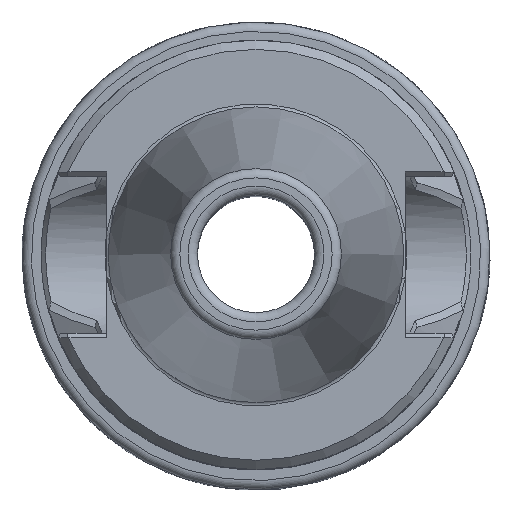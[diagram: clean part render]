
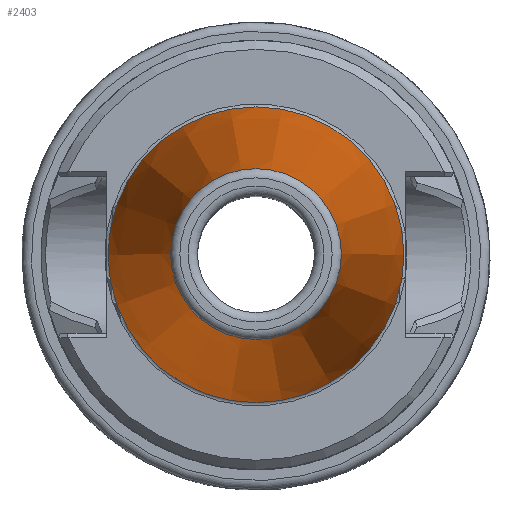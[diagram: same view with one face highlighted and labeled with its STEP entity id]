
A CAD part, top view. The second image highlights one B-rep face of the part: STEP entity #2403.
In plain terms, the highlighted conical face has half-angle 7.981 degrees and reference radius 12.4 mm.
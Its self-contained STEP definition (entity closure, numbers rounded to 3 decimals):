
#114=CIRCLE('',#2611,15.8);
#115=CIRCLE('',#2612,15.8);
#126=CIRCLE('',#2627,9.121);
#127=CIRCLE('',#2628,9.121);
#205=CONICAL_SURFACE('',#2629,12.4,0.139);
#277=LINE('',#4615,#392);
#392=VECTOR('',#3026,12.4);
#582=FACE_OUTER_BOUND('',#713,.T.);
#713=EDGE_LOOP('',(#1972,#1973,#1974,#1975,#1976,#1977));
#1040=VERTEX_POINT('',#4582);
#1041=VERTEX_POINT('',#4583);
#1050=VERTEX_POINT('',#4609);
#1051=VERTEX_POINT('',#4611);
#1368=EDGE_CURVE('',#1040,#1041,#114,.T.);
#1369=EDGE_CURVE('',#1041,#1040,#115,.T.);
#1382=EDGE_CURVE('',#1050,#1051,#126,.T.);
#1383=EDGE_CURVE('',#1051,#1050,#127,.T.);
#1384=EDGE_CURVE('',#1050,#1041,#277,.T.);
#1972=ORIENTED_EDGE('',*,*,#1383,.F.);
#1973=ORIENTED_EDGE('',*,*,#1382,.F.);
#1974=ORIENTED_EDGE('',*,*,#1384,.T.);
#1975=ORIENTED_EDGE('',*,*,#1369,.T.);
#1976=ORIENTED_EDGE('',*,*,#1368,.T.);
#1977=ORIENTED_EDGE('',*,*,#1384,.F.);
#2403=ADVANCED_FACE('',(#582),#205,.T.);
#2611=AXIS2_PLACEMENT_3D('',#4584,#2986,#2987);
#2612=AXIS2_PLACEMENT_3D('',#4585,#2988,#2989);
#2627=AXIS2_PLACEMENT_3D('',#4612,#3020,#3021);
#2628=AXIS2_PLACEMENT_3D('',#4613,#3022,#3023);
#2629=AXIS2_PLACEMENT_3D('',#4614,#3024,#3025);
#2986=DIRECTION('center_axis',(0.,0.,1.));
#2987=DIRECTION('ref_axis',(1.,0.,0.));
#2988=DIRECTION('center_axis',(0.,0.,1.));
#2989=DIRECTION('ref_axis',(1.,0.,0.));
#3020=DIRECTION('center_axis',(0.,0.,1.));
#3021=DIRECTION('ref_axis',(-1.,0.,0.));
#3022=DIRECTION('center_axis',(0.,0.,1.));
#3023=DIRECTION('ref_axis',(-1.,0.,0.));
#3024=DIRECTION('center_axis',(0.,0.,-1.));
#3025=DIRECTION('ref_axis',(1.,0.,0.));
#3026=DIRECTION('',(-0.139,0.,-0.99));
#4582=CARTESIAN_POINT('',(15.8,0.,-48.5));
#4583=CARTESIAN_POINT('',(-15.8,0.,-48.5));
#4584=CARTESIAN_POINT('Origin',(0.,0.,-48.5));
#4585=CARTESIAN_POINT('Origin',(0.,0.,-48.5));
#4609=CARTESIAN_POINT('',(-9.121,0.,-0.861));
#4611=CARTESIAN_POINT('',(9.121,0.,-0.861));
#4612=CARTESIAN_POINT('Origin',(0.,0.,
-0.861));
#4613=CARTESIAN_POINT('Origin',(0.,0.,
-0.861));
#4614=CARTESIAN_POINT('Origin',(0.,0.,-24.25));
#4615=CARTESIAN_POINT('',(-12.4,0.,-24.25));
